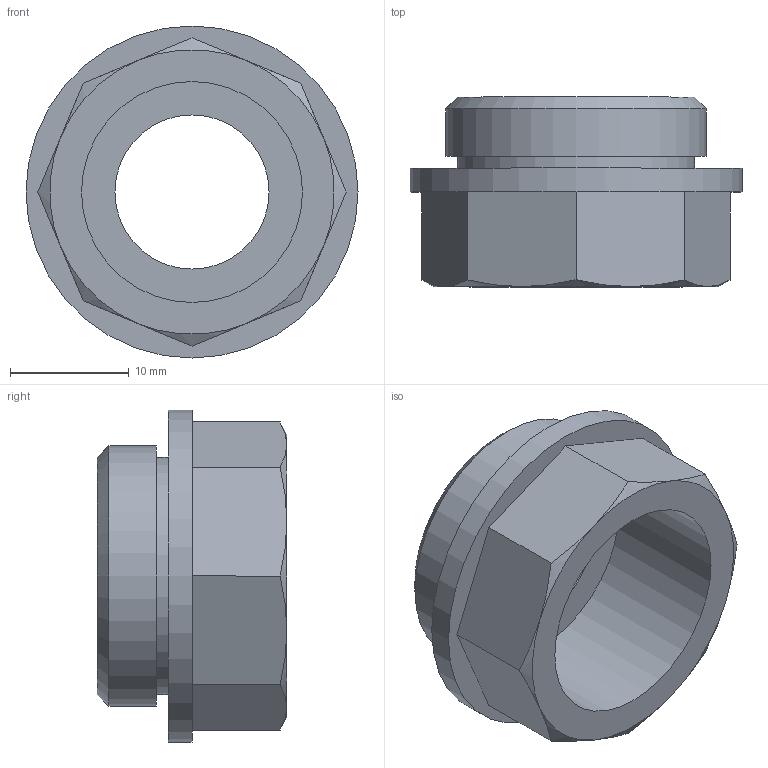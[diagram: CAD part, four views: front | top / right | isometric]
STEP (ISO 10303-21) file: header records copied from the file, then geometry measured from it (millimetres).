
FILE_DESCRIPTION(('STEP AP203'), '1');
FILE_NAME('Âòóëêà _ À.002', '', ('UNSPECIFIED'), ('UNSPECIFIED'), 'C3D Converter', 'C3D Toolkit', '');
FILE_SCHEMA(('CONFIG_CONTROL_DESIGN'));
Length unit declared in the file: millimetre
Products named in the file (1): А.002
Bounding box: 28 x 16 x 28 mm (x, y, z)
Volume: 3233.3 mm3; surface area: 3157.3 mm2
Topology: 1 solids, 1 shells, 30 faces, 60 edges, 37 vertices
Faces by surface type: plane 15, cone 9, cylinder 6
Full cylindrical faces by diameter (mm): 13 x1, 17 x1, 18.632 x1, 20 x1, 22 x1, 28 x1
Entity records: 1209 total; most frequent: CARTESIAN_POINT 345, DIRECTION 120, ORIENTED_EDGE 106, EDGE_CURVE 53, AXIS2_PLACEMENT_3D 52, EDGE_LOOP 44, VERTEX_POINT 37, COLOUR_RGB 31
